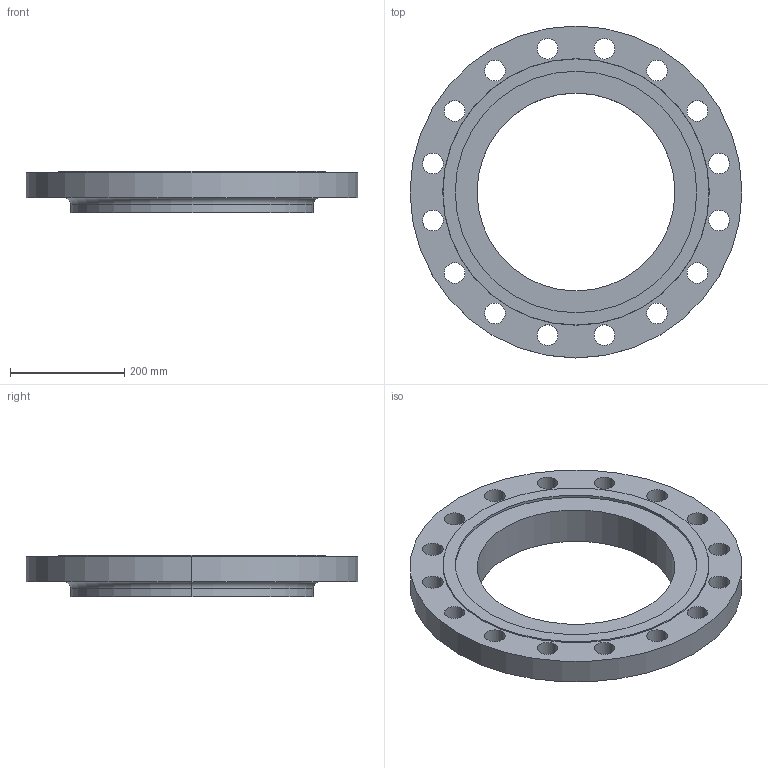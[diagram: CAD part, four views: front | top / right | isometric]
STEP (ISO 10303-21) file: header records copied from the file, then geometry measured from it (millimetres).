
FILE_DESCRIPTION (( 'STEP AP214' ), '1' );
FILE_NAME ('PN40 DN350 Type 13 - Type F Face.STEP', '2019-01-05T21:48:02', ( '' ), ( '' ), 'SwSTEP 2.0', 'SolidWorks 2019', '' );
FILE_SCHEMA (( 'AUTOMOTIVE_DESIGN' ));
Length unit declared in the file: millimetre
Products named in the file (1): PN40 DN350 Type 13 - Type F Face
Bounding box: 580 x 580 x 72 mm (x, y, z)
Volume: 7974518.8 mm3; surface area: 577624.4 mm2
Topology: 1 solids, 1 shells, 49 faces, 130 edges, 86 vertices
Faces by surface type: cylinder 40, plane 5, torus 2, cone 2
Entity records: 1678 total; most frequent: DIRECTION 318, CARTESIAN_POINT 266, ORIENTED_EDGE 260, AXIS2_PLACEMENT_3D 138, EDGE_CURVE 130, CIRCLE 88, VERTEX_POINT 86, EDGE_LOOP 86
